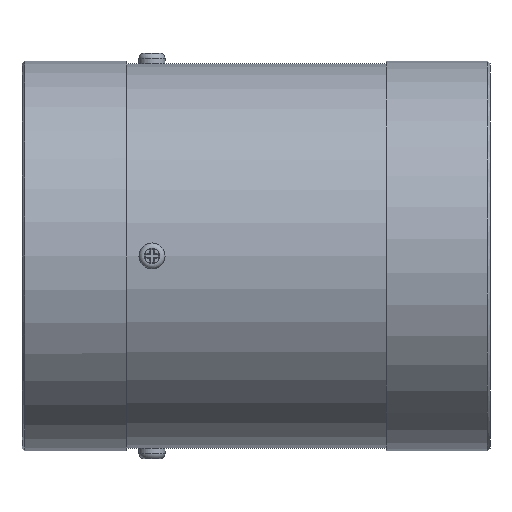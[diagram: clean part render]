
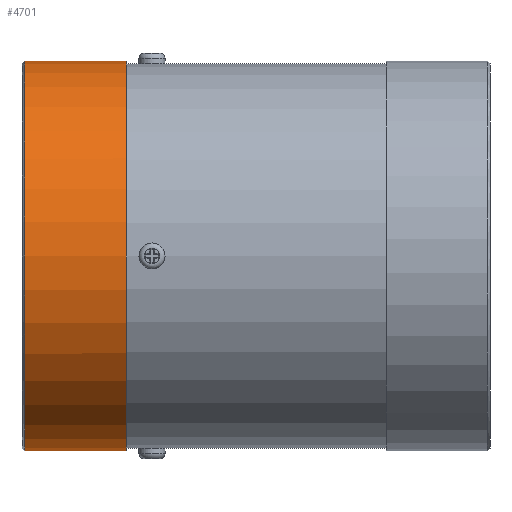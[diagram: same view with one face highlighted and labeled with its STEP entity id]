
A CAD part, front view. The second image highlights one B-rep face of the part: STEP entity #4701.
In plain terms, the highlighted cylindrical face has radius 37.5 mm (diameter 75 mm), a full revolution.
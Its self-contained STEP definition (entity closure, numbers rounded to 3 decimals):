
#4670=CARTESIAN_POINT('',(-44.5,37.5,0.));
#4671=VERTEX_POINT('',#4670);
#4672=CARTESIAN_POINT('',(-44.5,0.0,0.0));
#4673=DIRECTION('',(-1.0,0.0,0.0));
#4674=DIRECTION('',(0.0,-1.0,0.0));
#4675=AXIS2_PLACEMENT_3D('',#4672,#4673,#4674);
#4676=CIRCLE('',#4675,37.5);
#4677=EDGE_CURVE('',#4671,#4671,#4676,.T.);
#4682=CARTESIAN_POINT('',(-35.0,0.0,0.0));
#4683=DIRECTION('',(1.0,0.0,0.0));
#4684=DIRECTION('',(0.0,1.0,0.0));
#4685=AXIS2_PLACEMENT_3D('',#4682,#4683,#4684);
#4686=CYLINDRICAL_SURFACE('',#4685,37.5);
#4687=CARTESIAN_POINT('',(-25.0,37.5,0.0));
#4688=VERTEX_POINT('',#4687);
#4689=CARTESIAN_POINT('',(-25.0,0.0,0.0));
#4690=DIRECTION('',(1.0,0.0,0.0));
#4691=DIRECTION('',(0.0,1.0,0.0));
#4692=AXIS2_PLACEMENT_3D('',#4689,#4690,#4691);
#4693=CIRCLE('',#4692,37.5);
#4694=EDGE_CURVE('',#4688,#4688,#4693,.T.);
#4695=ORIENTED_EDGE('',*,*,#4694,.F.);
#4696=EDGE_LOOP('',(#4695));
#4697=FACE_OUTER_BOUND('',#4696,.T.);
#4698=ORIENTED_EDGE('',*,*,#4677,.F.);
#4699=EDGE_LOOP('',(#4698));
#4700=FACE_BOUND('',#4699,.T.);
#4701=ADVANCED_FACE('',(#4697,#4700),#4686,.T.);
